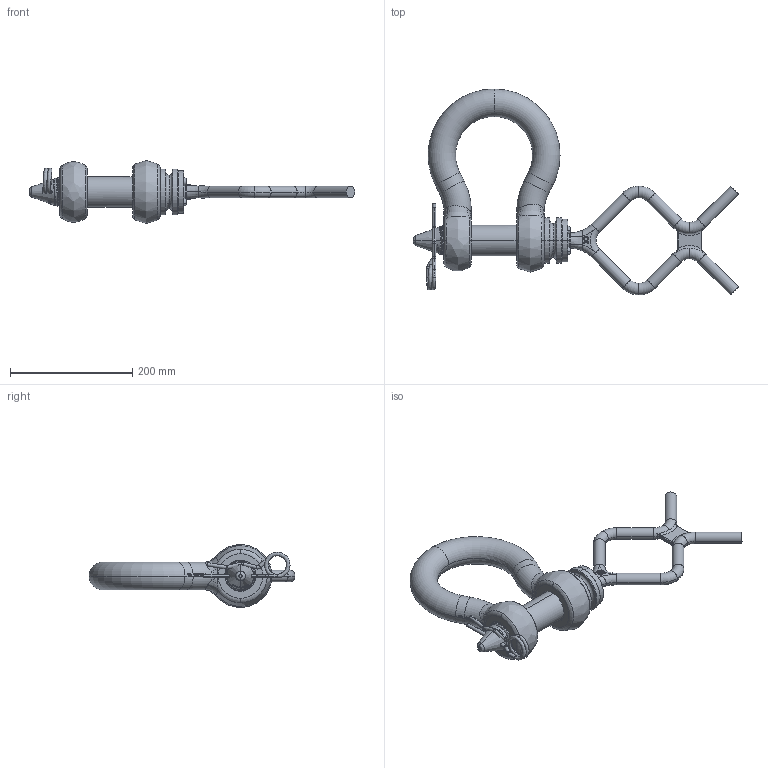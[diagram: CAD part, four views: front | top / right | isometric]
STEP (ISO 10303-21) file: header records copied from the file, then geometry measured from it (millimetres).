
FILE_DESCRIPTION(('STEP AP203'),'1');
FILE_NAME('poghbb45rovrltf.stp','2026-07-23T16:57:43',('TraceParts'),('TraceParts S.A.S.'),'Spatial InterOp 3D',' ',' ');
FILE_SCHEMA(('CONFIG_CONTROL_DESIGN'));
Length unit declared in the file: millimetre
Products named in the file (1): 1
Bounding box: 532.25 x 337.1 x 103.38 mm (x, y, z)
Volume: 1920696.1 mm3; surface area: 242733.3 mm2
Topology: 8 solids, 8 shells, 1011 faces, 2691 edges, 1719 vertices
Faces by surface type: plane 379, bspline 288, cylinder 162, torus 123, cone 59
Entity records: 64372 total; most frequent: CARTESIAN_POINT 40941, ORIENTED_EDGE 5318, DIRECTION 4278, EDGE_CURVE 2659, VERTEX_POINT 1719, AXIS2_PLACEMENT_3D 1622, EDGE_LOOP 1084, LINE 1034
